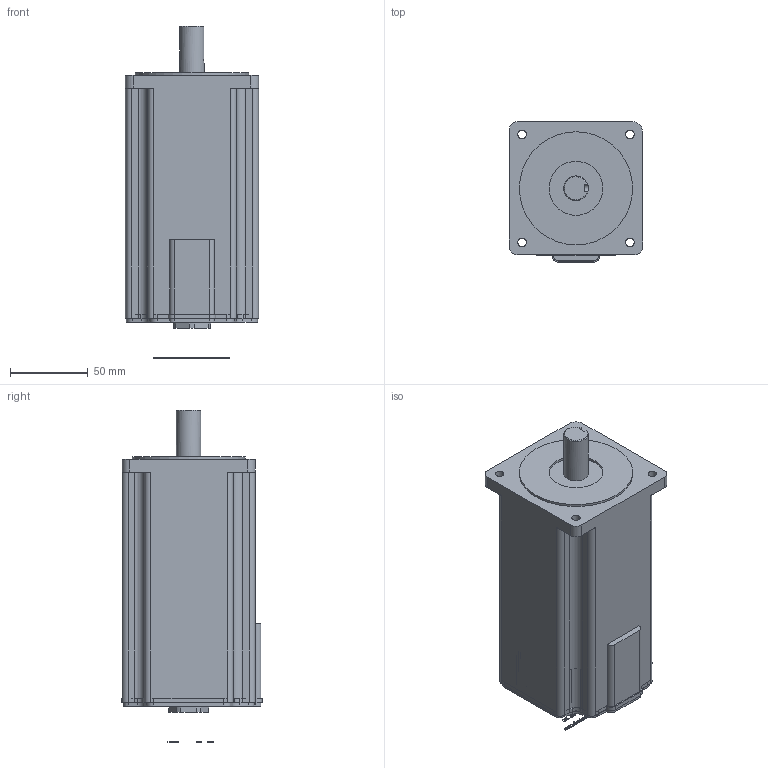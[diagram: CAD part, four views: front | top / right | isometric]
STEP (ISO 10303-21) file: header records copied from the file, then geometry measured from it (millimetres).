
FILE_DESCRIPTION(/* description */ ('Alibre Inc.'),/* implementation_level */ '2;1');
FILE_NAME(/* name */ 'export0',/* time_stamp */ '2008-02-05T14:18:01-08:00',/* author */ (''),/* organization */ (''),/* preprocessor_version */ 'ST-DEVELOPER v10',/* originating_system */ 'Alibre',/* authorisation */ '');
FILE_SCHEMA (('ALIBRE_SCHEMA','CONFIG_CONTROL_DESIGN'));
Length unit declared in the file: centimetre
Products named in the file (9): ID_1
Bounding box: 86.11 x 90.42 x 214.12 mm (x, y, z)
Volume: 1089667.7 mm3; surface area: 120570.9 mm2
Topology: 63 solids, 64 shells, 1451 faces, 3910 edges, 2572 vertices
Faces by surface type: plane 696, bspline 573, cylinder 165, cone 15, torus 2
Full cylindrical faces by diameter (mm): 1.216 x14, 2.286 x6, 5.537 x4, 9.525 x2, 14.732 x1, 15.24 x1, 15.875 x1, 16 x1, 19.99 x1, 21.996 x2, 23 x1, 24.435 x1, 25.4 x2, 27.94 x1, 27.991 x1, 34.798 x1, 73.025 x1
Entity records: 79896 total; most frequent: CARTESIAN_POINT 19555, ORIENTED_EDGE 7780, DIRECTION 5176, CONSTRAINTPAIRUV 4993, EDGE_CURVE 3859, PERSISTANTTOPOLOGYATTRIBUTE 3539, VECTOR 3343, REFERENCEPOINTUV 3165
